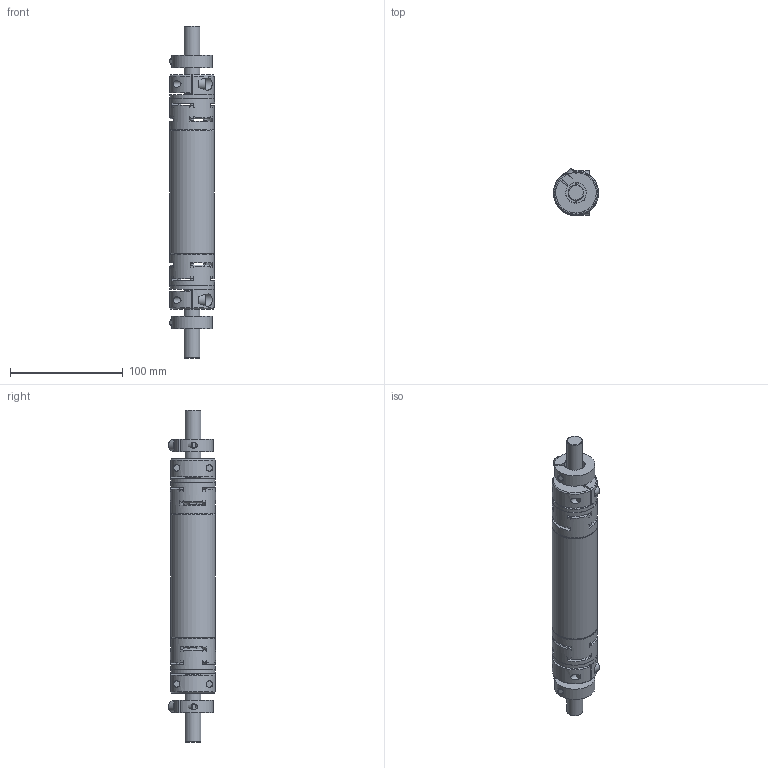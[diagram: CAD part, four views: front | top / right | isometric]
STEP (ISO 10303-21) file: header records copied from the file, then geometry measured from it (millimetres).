
FILE_DESCRIPTION(/* description */ ('Connecting shaft HLR080 - double axis distance = 300mm'),/* implementation_level */ '2;1');
FILE_NAME(/* name */ 'D:\InventorWorkspace2017\CAD\Projekte_EDEM\HLR\Zubehörteile\0242910-0300.stp',/* time_stamp */ '2019-02-13T11:16:30+01:00',/* author */ ('544672'),/* organization */ (''),/* preprocessor_version */ 'ST-DEVELOPER v16.5',/* originating_system */ 'Autodesk Inventor 2017',/* authorisation */ '');
FILE_SCHEMA (('AUTOMOTIVE_DESIGN { 1 0 10303 214 3 1 1 }'));
Length unit declared in the file: millimetre
Products named in the file (8): 0242.910-0300; 0241910-XXXX; ROTEX GS19 ZR3_Rohr_1; ROTEX GS19 ZR3_Klemmnabe D14; 0242007-02; 0241914; 0241012; 130-302345
Assembly tree (11 placements, depth 3):
  0242.910-0300
    0241910-XXXX
      ROTEX GS19 ZR3_Klemmnabe D14  x2
      ROTEX GS19 ZR3_Rohr_1
    0242007-02
      0241914  x2
      0241012  x2
      130-302345  x2
Bounding box: 40 x 41.78 x 295 mm (x, y, z)
Volume: 164639.9 mm3; surface area: 77589.3 mm2
Topology: 9 solids, 9 shells, 424 faces, 1188 edges, 790 vertices
Faces by surface type: cylinder 176, plane 154, cone 90, torus 4
Full cylindrical faces by diameter (mm): 3 x12, 4.917 x2, 6 x6, 6.4 x2, 6.6 x8, 10 x6, 14 x4, 18 x4, 22 x2, 34 x1, 39.4 x2, 40 x3
Entity records: 7305 total; most frequent: CARTESIAN_POINT 1526, DIRECTION 1269, ORIENTED_EDGE 1082, EDGE_CURVE 541, AXIS2_PLACEMENT_3D 540, VERTEX_POINT 383, EDGE_LOOP 294, CIRCLE 291
